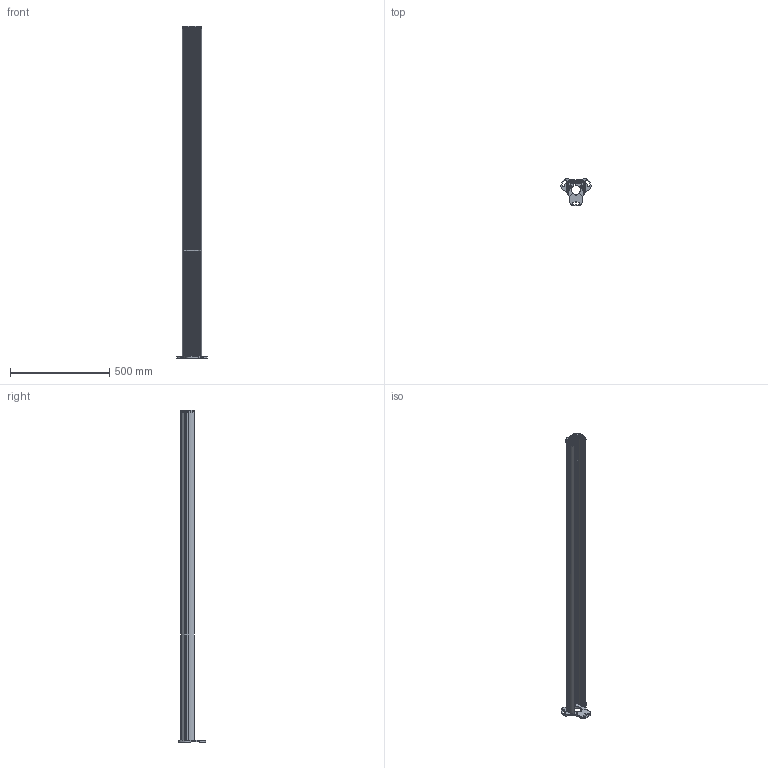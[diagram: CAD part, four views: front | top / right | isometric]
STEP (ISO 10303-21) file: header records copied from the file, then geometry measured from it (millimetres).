
FILE_DESCRIPTION(/* description */ (''),/* implementation_level */ '2;1');
FILE_NAME(/* name */ 'D:\_Vault\Workspace\Projektordner\3-Sensoren\03-OES\06-PSENoptII Zubehör II\Kundendaten\Neutralformate\H306222_A_protective_column_165_PSEN_opII_Kundendaten.stp',/* time_stamp */ '2019-07-02T12:46:40+02:00',/* author */ ('dambuehl'),/* organization */ (''),/* preprocessor_version */ 'ST-DEVELOPER v17.2',/* originating_system */ 'Autodesk Inventor 2019',/* authorisation */ '');
FILE_SCHEMA (('CONFIG_CONTROL_DESIGN'));
Length unit declared in the file: millimetre
Products named in the file (14): H306222; 632503; H306095-1650; H306032; H306044; H305292; Fadenkreuz PSEN opII Adjustable Base II; H306168; H306159; H305300; Füllstoff Schraube FP mc; Füllstoff Langloch FP; Füllstoff Profil-1650; Füllstoff Deckel II
Assembly tree (20 placements, depth 4):
  H306222
    632503
      H306095-1650
        H306032
      H306044
      H305292
      Fadenkreuz PSEN opII Adjustable Base II
      H306168
      H305300  x6
      H306159  x2
    Füllstoff Schraube FP mc  x2
    Füllstoff Langloch FP
    Füllstoff Profil-1650
    Füllstoff Deckel II
Bounding box: 153.46 x 139.19 x 1674.3 mm (x, y, z)
Volume: 2392709.2 mm3; surface area: 1502955.4 mm2
Topology: 40 solids, 40 shells, 2352 faces, 5637 edges, 3342 vertices
Faces by surface type: cylinder 770, plane 552, bspline 502, torus 196, sphere 196, cone 136
Full cylindrical faces by diameter (mm): 4 x2, 5.386 x6, 6 x8, 6.35 x2, 7 x5, 8.9 x2, 9.5 x2, 12.3 x2, 14 x4
Entity records: 79305 total; most frequent: CARTESIAN_POINT 29597, ORIENTED_EDGE 10424, DIRECTION 10155, EDGE_CURVE 5212, AXIS2_PLACEMENT_3D 4085, VERTEX_POINT 3086, EDGE_LOOP 2244, FACE_OUTER_BOUND 2203
